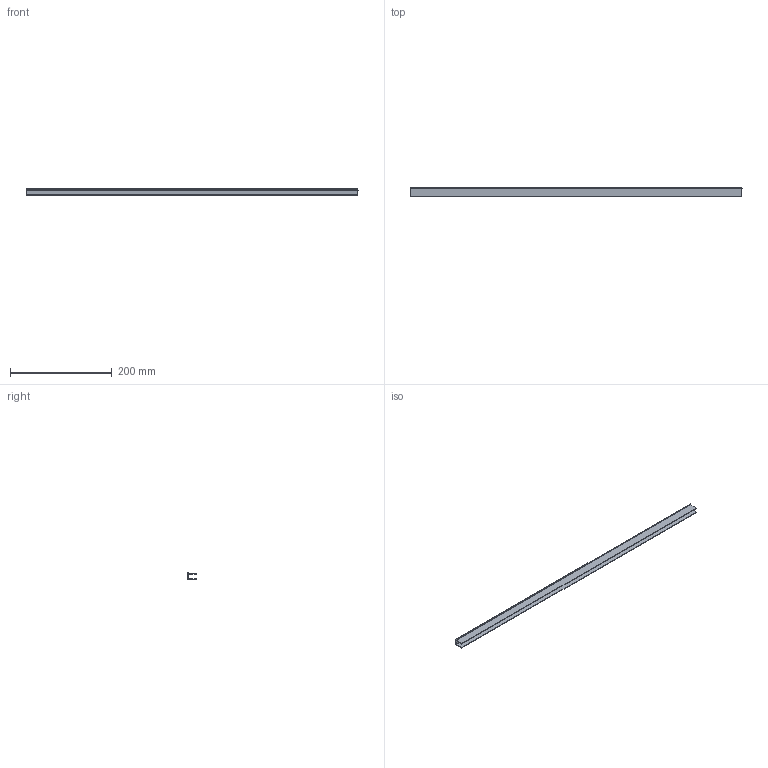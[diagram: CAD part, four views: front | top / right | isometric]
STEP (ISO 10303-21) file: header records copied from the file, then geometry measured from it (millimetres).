
FILE_DESCRIPTION(/* description */ (''),/* implementation_level */ '2;1');
FILE_NAME(/* name */ 'Pos123-GLASLAT T.B.V. PV-SCHERM-Aluminium-2st',/* time_stamp */ '2024-08-06T11:49:44+02:00',/* author */ (''),/* organization */ (''),/* preprocessor_version */ 'ST-DEVELOPER v16.5',/* originating_system */ 'HiCAD 2024 2901.2 Build 361',/* authorisation */ '');
FILE_SCHEMA (('AUTOMOTIVE_DESIGN { 1 0 10303 214 1 1 1 1 }'));
Length unit declared in the file: millimetre
Products named in the file (1): Pos123-GLASLAT T.B.V. PV-SCHERM-Aluminium-2st
Bounding box: 654 x 17 x 12.5 mm (x, y, z)
Volume: 36297 mm3; surface area: 58971 mm2
Topology: 1 solids, 1 shells, 12 faces, 30 edges, 20 vertices
Faces by surface type: plane 12
Entity records: 672 total; most frequent: CARTESIAN_POINT 62, PRESENTATION_STYLE_ASSIGNMENT 61, COLOUR_RGB 61, DRAUGHTING_PRE_DEFINED_CURVE_FONT 60, CURVE_STYLE 60, OVER_RIDING_STYLED_ITEM 60, ORIENTED_EDGE 60, DIRECTION 54
